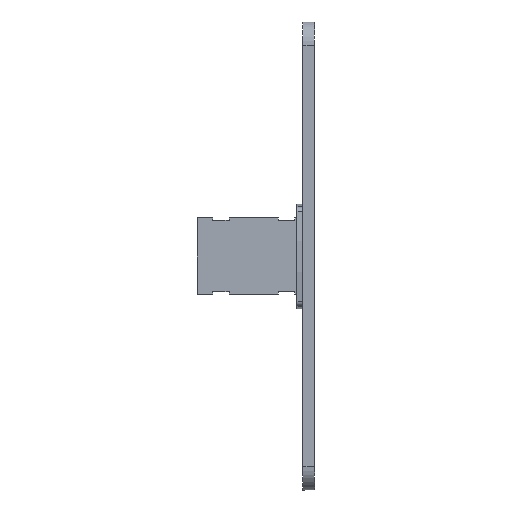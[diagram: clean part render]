
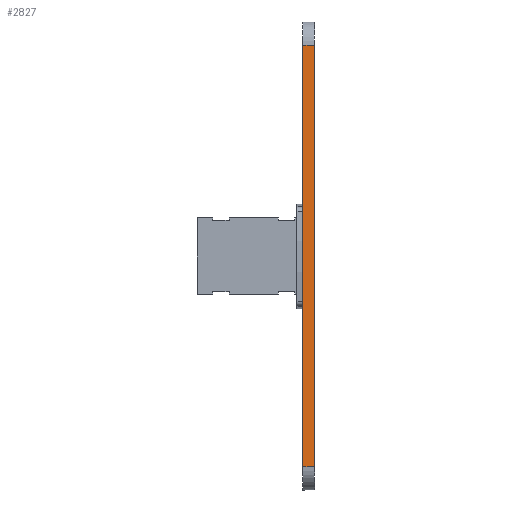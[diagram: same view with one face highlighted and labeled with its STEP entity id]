
A CAD part, left-side view. The second image highlights one B-rep face of the part: STEP entity #2827.
In plain terms, the highlighted planar face has unit normal (-1, 0, 0).
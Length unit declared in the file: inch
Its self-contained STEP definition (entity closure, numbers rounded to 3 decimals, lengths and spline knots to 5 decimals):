
#495 = CARTESIAN_POINT ( 'NONE',  ( -7.87402, 0.3937, 7.08661 ) ) ;
#496 = CARTESIAN_POINT ( 'NONE',  ( -7.87402, 0.3937, -7.08661 ) ) ;
#922 = EDGE_LOOP ( 'NONE', ( #1148, #1149, #1150, #1151 ) ) ;
#1148 = ORIENTED_EDGE ( 'NONE', *, *, #2963, .F. ) ;
#1149 = ORIENTED_EDGE ( 'NONE', *, *, #2961, .T. ) ;
#1150 = ORIENTED_EDGE ( 'NONE', *, *, #2964, .T. ) ;
#1151 = ORIENTED_EDGE ( 'NONE', *, *, #2909, .F. ) ;
#1297 = VERTEX_POINT ( 'NONE', #2081 ) ;
#1343 = VERTEX_POINT ( 'NONE', #2122 ) ;
#1433 = VERTEX_POINT ( 'NONE', #495 ) ;
#1434 = VERTEX_POINT ( 'NONE', #496 ) ;
#2081 = CARTESIAN_POINT ( 'NONE',  ( -7.87402, 0., 7.08661 ) ) ;
#2122 = CARTESIAN_POINT ( 'NONE',  ( -7.87402, 0., -7.08661 ) ) ;
#2667 = FACE_OUTER_BOUND ( 'NONE', #922, .T. ) ;
#2827 = ADVANCED_FACE ( 'NONE', ( #2667 ), #3395, .T. ) ;
#2909 = EDGE_CURVE ( 'NONE', #1434, #1433, #4206, .T. ) ;
#2961 = EDGE_CURVE ( 'NONE', #1343, #1297, #4288, .T. ) ;
#2963 = EDGE_CURVE ( 'NONE', #1343, #1434, #4292, .T. ) ;
#2964 = EDGE_CURVE ( 'NONE', #1297, #1433, #4294, .T. ) ;
#3137 = AXIS2_PLACEMENT_3D ( 'NONE', #3391, #3398, #3399 ) ;
#3391 = CARTESIAN_POINT ( 'NONE',  ( -7.87402, -0.0294, -7.37008 ) ) ;
#3395 = PLANE ( 'NONE',  #3137 ) ;
#3398 = DIRECTION ( 'NONE',  ( -1., 0., 0. ) ) ;
#3399 = DIRECTION ( 'NONE',  ( 0., 0., 1. ) ) ;
#3677 = CARTESIAN_POINT ( 'NONE',  ( -7.87402, 0.3937, 0. ) ) ;
#3678 = DIRECTION ( 'NONE',  ( 0., 0., 1. ) ) ;
#3796 = CARTESIAN_POINT ( 'NONE',  ( -7.87402, 0., 0. ) ) ;
#3803 = DIRECTION ( 'NONE',  ( 0., 0., 1. ) ) ;
#3806 = CARTESIAN_POINT ( 'NONE',  ( -7.87402, 0.19685, -7.08661 ) ) ;
#3807 = DIRECTION ( 'NONE',  ( 0., 1., 0. ) ) ;
#3808 = CARTESIAN_POINT ( 'NONE',  ( -7.87402, 0.19685, 7.08661 ) ) ;
#3809 = DIRECTION ( 'NONE',  ( 0., 1., 0. ) ) ;
#4206 = LINE ( 'NONE', #3677, #4207 ) ;
#4207 = VECTOR ( 'NONE', #3678, 39.37008 ) ;
#4282 = VECTOR ( 'NONE', #3803, 39.37008 ) ;
#4288 = LINE ( 'NONE', #3796, #4282 ) ;
#4292 = LINE ( 'NONE', #3806, #4293 ) ;
#4293 = VECTOR ( 'NONE', #3807, 39.37008 ) ;
#4294 = LINE ( 'NONE', #3808, #4295 ) ;
#4295 = VECTOR ( 'NONE', #3809, 39.37008 ) ;
